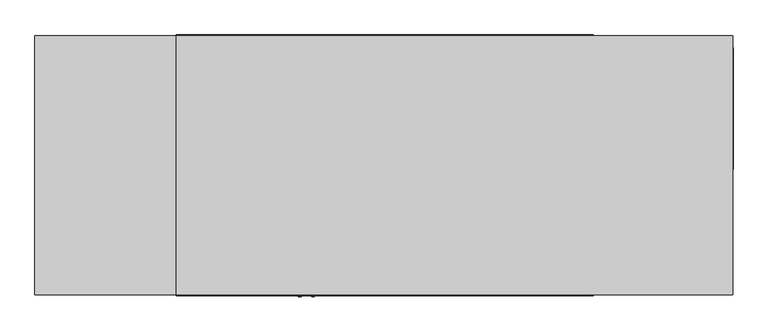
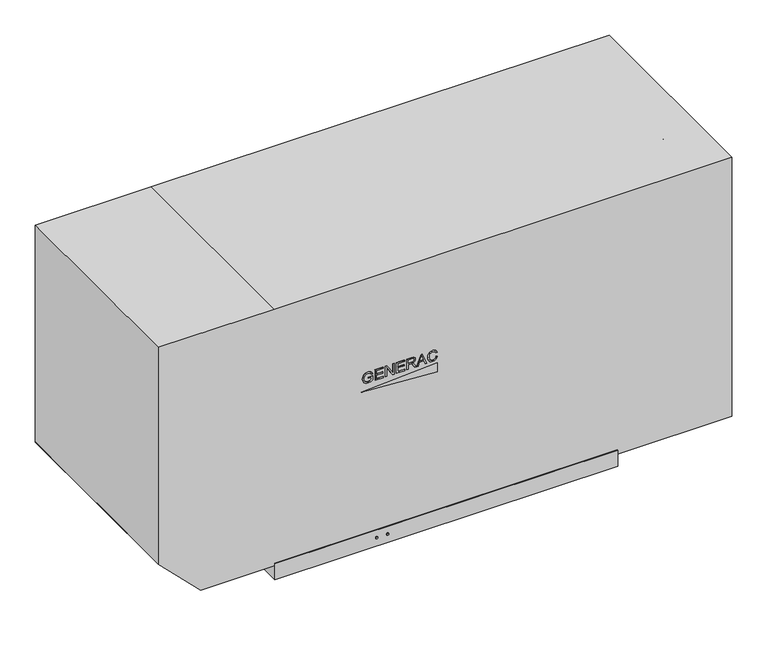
"""IFC4 building model written with IfcOpenShell, lengths in millimetres: proxy geometry, Electrical_Equipment-Generac-Generator-Gemini_1000kW : MD1000GEM - 277v - 3p."""

from ifc_helpers import new_model, si_unit, point, frame, frame_2d, origin, origin_with_axes, place, context, project, spatial, polyline, circle_curve, trimmed, segment, composite_curve, outline, extrude, faceted_brep, source, transform, mapped, element, save


def electrical_equipment_ca6008a4(model_context):
    return source(origin(), model_context, "Body", "SolidModel", [
        extrude(outline(polyline([(2059.2359794, 2382.4413369), (2059.2359794, 2418.4413369), (2036.1109794, 2418.4413369), (2027.3453544, 2402.2382119), (2023.2359794, 2380.3475869), (2028.6891044, 2355.9569619), (2035.5875419, 2345.8397744), (2045.3766044, 2338.4569619), (2057.9664481, 2333.9452431), (2073.2672294, 2332.4413369), (2098.3922294, 2337.4413369), (2110.7203544, 2345.6757119), (2119.7828544, 2359.6132119), (2123.2359794, 2380.0975869), (2120.0328544, 2398.0819619), (2111.5016044, 2410.5507119), (2096.7047294, 2417.8475869), (2100.8609794, 2432.5975869), (2122.0328544, 2422.9257119), (2134.6891044, 2405.3788369), (2139.2359794, 2380.3475869), (2137.2750419, 2362.3944619), (2131.3922294, 2346.6600869), (2121.4742606, 2333.7421181), (2107.4078544, 2324.2382119), (2090.6383231, 2318.3905556), (2072.6109794, 2316.4413369), (2054.7125419, 2318.3983681), (2038.5797294, 2324.2694619), (2025.1305106, 2333.9803994), (2015.2828544, 2347.4569619), (2009.2476981, 2363.6796181), (2007.2359794, 2381.6288369), (2012.2984794, 2408.7694619), (2027.3922294, 2434.4413369), (2075.2359794, 2434.4413369), (2075.2359794, 2382.4413369), (2059.2359794, 2382.4413369)])), frame((0.0, 7.6397414, 0.0), z_axis=(0.0, 1.0, 0.0), x_axis=(0.0, 0.0, 1.0)), (0.0, 0.0, 1.0), 2.5),
        extrude(outline(polyline([(2009.2359794, 2460.4413369), (2009.2359794, 2554.4413369), (2025.2359794, 2554.4413369), (2025.2359794, 2476.4413369), (2067.2359794, 2476.4413369), (2067.2359794, 2548.4413369), (2083.2359794, 2548.4413369), (2083.2359794, 2476.4413369), (2121.2359794, 2476.4413369), (2121.2359794, 2552.4413369), (2137.2359794, 2552.4413369), (2137.2359794, 2460.4413369), (2009.2359794, 2460.4413369)])), frame((0.0, 7.6397414, 0.0), z_axis=(0.0, 1.0, 0.0), x_axis=(0.0, 0.0, 1.0)), (0.0, 0.0, 1.0), 2.5),
        extrude(outline(polyline([(2009.2359794, 2578.4413369), (2009.2359794, 2594.4413369), (2110.6734794, 2594.4413369), (2009.2359794, 2661.3163369), (2009.2359794, 2678.4413369), (2137.2359794, 2678.4413369), (2137.2359794, 2662.4413369), (2035.8297294, 2662.4413369), (2137.2359794, 2595.5663369), (2137.2359794, 2578.4413369), (2009.2359794, 2578.4413369)])), frame((0.0, 7.6397414, 0.0), z_axis=(0.0, 1.0, 0.0), x_axis=(0.0, 0.0, 1.0)), (0.0, 0.0, 1.0), 2.5),
        extrude(outline(polyline([(2009.2359794, 2706.4413369), (2009.2359794, 2800.4413369), (2025.2359794, 2800.4413369), (2025.2359794, 2722.4413369), (2067.2359794, 2722.4413369), (2067.2359794, 2794.4413369), (2083.2359794, 2794.4413369), (2083.2359794, 2722.4413369), (2121.2359794, 2722.4413369), (2121.2359794, 2798.4413369), (2137.2359794, 2798.4413369), (2137.2359794, 2706.4413369), (2009.2359794, 2706.4413369)])), frame((0.0, 7.6397414, 0.0), z_axis=(0.0, 1.0, 0.0), x_axis=(0.0, 0.0, 1.0)), (0.0, 0.0, 1.0), 2.5),
        extrude(outline(polyline([(2009.2359794, 2824.4413369), (2009.2359794, 2840.4413369), (2065.2359794, 2840.4413369), (2065.2359794, 2859.7538369), (2064.6734794, 2869.0350869), (2061.6266044, 2876.6444619), (2053.3297294, 2885.0975869), (2035.7672294, 2897.1288369), (2009.2359794, 2913.7850869), (2009.2359794, 2932.3788369), (2043.9234794, 2911.0350869), (2060.3922294, 2898.0663369), (2067.2359794, 2888.9725869), (2071.4781669, 2904.7343056), (2079.1422294, 2915.7694619), (2089.5953544, 2922.2733681), (2102.2047294, 2924.4413369), (2121.5641044, 2919.2069619), (2133.7828544, 2905.2069619), (2137.2359794, 2879.5975869), (2137.2359794, 2824.4413369), (2009.2359794, 2824.4413369)]), holes=[polyline([(2081.2359794, 2840.4413369), (2121.2359794, 2840.4413369), (2121.2359794, 2880.2850869), (2119.8531669, 2892.9452431), (2115.7047294, 2901.6757119), (2109.4156669, 2906.7499306), (2101.6109794, 2908.4413369), (2090.7516044, 2904.8944619), (2083.5016044, 2894.5194619), (2081.2359794, 2876.2538369), (2081.2359794, 2840.4413369)])]), frame((0.0, 7.6397414, 0.0), z_axis=(0.0, 1.0, 0.0), x_axis=(0.0, 0.0, 1.0)), (0.0, 0.0, 1.0), 2.5),
        extrude(outline(polyline([(2009.2359794, 2937.5350869), (2009.2359794, 2954.4413369), (2049.2359794, 2969.0663369), (2049.2359794, 3021.7850869), (2009.2359794, 3036.4413369), (2009.2359794, 3053.3475869), (2137.2359794, 3002.2538369), (2137.2359794, 2988.6288369), (2009.2359794, 2937.5350869)]), holes=[polyline([(2065.2359794, 2974.9413369), (2099.4547294, 2987.4725869), (2121.2359794, 2995.4413369), (2096.7047294, 3004.4100869), (2065.2359794, 3015.9413369), (2065.2359794, 2974.9413369)])]), frame((0.0, 7.6397414, 0.0), z_axis=(0.0, 1.0, 0.0), x_axis=(0.0, 0.0, 1.0)), (0.0, 0.0, 1.0), 2.5),
        extrude(outline(polyline([(2054.7359794, 3160.4413369), (2041.0328544, 3155.2655556), (2031.1734794, 3146.8632119), (2025.2203544, 3135.7343056), (2023.2359794, 3122.3788369), (2029.0641044, 3100.3007119), (2036.3805106, 3091.4413369), (2046.6734794, 3085.2694619), (2074.2359794, 3080.4413369), (2098.0172294, 3084.5194619), (2108.3766044, 3090.0936806), (2116.3922294, 3098.6600869), (2121.5250419, 3109.9491494), (2123.2359794, 3123.6913369), (2121.6930106, 3135.6132119), (2117.0641044, 3145.3163369), (2109.0601981, 3152.8944619), (2097.3922294, 3158.4413369), (2101.2047294, 3174.4413369), (2117.2672294, 3167.3749306), (2129.2672294, 3156.3632119), (2136.7437919, 3141.8593056), (2139.2359794, 3124.3163369), (2137.3101981, 3108.2382119), (2131.5328544, 3093.5663369), (2122.0445731, 3081.1952431), (2108.9859794, 3072.0194619), (2092.8687919, 3066.3358681), (2074.2047294, 3064.4413369), (2056.5094169, 3066.1171181), (2039.9859794, 3071.1444619), (2025.9312919, 3079.3788369), (2015.6422294, 3090.6757119), (2009.3375419, 3105.4139931), (2007.2359794, 3123.9725869), (2010.0133231, 3142.2538369), (2018.3453544, 3157.4725869), (2031.9664481, 3169.0585244), (2050.6109794, 3176.4413369), (2054.7359794, 3160.4413369)])), frame((0.0, 7.6397414, 0.0), z_axis=(0.0, 1.0, 0.0), x_axis=(0.0, 0.0, 1.0)), (0.0, 0.0, 1.0), 2.5),
        extrude(outline(polyline([(1865.5915403, 3174.6768687), (1970.9375923, 3174.6768687), (1918.2645663, 2301.8095808), (1865.5915403, 3174.6768687)])), frame((0.0, 7.6397414, 0.0), z_axis=(0.0, 1.0, 0.0), x_axis=(0.0, 0.0, 1.0)), (0.0, 0.0, 1.0), 2.5),
        extrude(outline(polyline([(1206.1343451, 2563.7360367), (1206.1343451, 2672.043729), (1246.2737681, 2672.043729), (1262.4564604, 2671.012479), (1275.6115085, 2665.948777), (1284.1391528, 2655.4776232), (1287.3651143, 2640.7095943), (1285.1869292, 2627.9445703), (1278.6523739, 2617.308152), (1266.4327225, 2610.1290655), (1247.1992489, 2607.7360367), (1219.6728066, 2607.7360367), (1219.6728066, 2563.7360367), (1206.1343451, 2563.7360367)]), holes=[polyline([(1219.6728066, 2621.2744982), (1247.9925181, 2621.2744982), (1259.9973258, 2622.5172867), (1267.9300181, 2626.245652), (1272.3524941, 2632.2282242), (1273.8266528, 2640.2336328), (1270.3494893, 2651.4451713), (1261.213672, 2657.5797867), (1247.6752104, 2658.5052674), (1219.6728066, 2658.5052674), (1219.6728066, 2621.2744982)])]), frame((6553.2, 0.0, 0.0), z_axis=(1.0, 0.0, 0.0), x_axis=(0.0, 1.0, 0.0)), (0.0, 0.0, 1.0), 2.5),
        extrude(outline(polyline([(1300.9035758, 2616.4619982), (1304.5129508, 2640.4121184), (1315.3410758, 2658.5317097), (1331.8741287, 2669.9349549), (1352.5982874, 2673.7360367), (1366.8044172, 2671.9511809), (1379.5429989, 2666.5966136), (1390.119922, 2658.0491376), (1397.8410758, 2646.6855559), (1402.5610278, 2633.0545463), (1404.1343451, 2617.7047867), (1402.4783955, 2602.1500992), (1397.510547, 2588.3273828), (1389.5051383, 2576.9439693), (1378.7365085, 2568.7071905), (1366.1070013, 2563.7095943), (1352.5189604, 2562.043729), (1338.0946816, 2563.8847746), (1325.2833835, 2569.4079117), (1314.7329028, 2578.1140415), (1307.0910758, 2589.5040655), (1302.4504508, 2602.6095343), (1300.9035758, 2616.4619982)]), holes=[polyline([(1314.4420374, 2616.3297867), (1317.1490686, 2599.386878), (1325.2701624, 2586.4764213), (1337.4765927, 2578.3057482), (1352.4396335, 2575.5821905), (1367.6208234, 2578.3321905), (1379.8470854, 2586.5821905), (1387.908684, 2599.8892818), (1390.5958835, 2617.8105559), (1385.994922, 2640.1543059), (1372.5490085, 2654.948777), (1352.6776143, 2660.1975751), (1338.1145133, 2657.6690294), (1325.7329028, 2650.0833924), (1317.2647537, 2636.5878996), (1314.4420374, 2616.3297867)])]), frame((6553.2, 0.0, 0.0), z_axis=(1.0, 0.0, 0.0), x_axis=(0.0, 1.0, 0.0)), (0.0, 0.0, 1.0), 2.5),
        extrude(outline(polyline([(1442.1319412, 2563.7360367), (1412.5958835, 2672.043729), (1426.557422, 2672.043729), (1443.6920374, 2600.8610367), (1448.9804989, 2578.887479), (1454.6391528, 2598.3225751), (1476.1103066, 2672.043729), (1496.2329028, 2672.043729), (1511.8338643, 2618.6038251), (1523.4420374, 2578.887479), (1528.5718451, 2600.2264213), (1545.8651143, 2672.043729), (1559.8266528, 2672.043729), (1530.2641528, 2563.7360367), (1515.8002104, 2563.7360367), (1489.8338643, 2647.293729), (1486.2112681, 2658.9547867), (1482.1391528, 2644.9139213), (1458.4732874, 2563.7360367), (1442.1319412, 2563.7360367)])), frame((6553.2, 0.0, 0.0), z_axis=(1.0, 0.0, 0.0), x_axis=(0.0, 1.0, 0.0)), (0.0, 0.0, 1.0), 2.5),
        extrude(outline(polyline([(1573.3651143, 2563.7360367), (1573.3651143, 2672.043729), (1651.2112681, 2672.043729), (1651.2112681, 2658.5052674), (1586.9035758, 2658.5052674), (1586.9035758, 2626.3514213), (1647.8266528, 2626.3514213), (1647.8266528, 2612.8129597), (1586.9035758, 2612.8129597), (1586.9035758, 2577.2744982), (1652.9035758, 2577.2744982), (1652.9035758, 2563.7360367), (1573.3651143, 2563.7360367)])), frame((6553.2, 0.0, 0.0), z_axis=(1.0, 0.0, 0.0), x_axis=(0.0, 1.0, 0.0)), (0.0, 0.0, 1.0), 2.5),
        extrude(outline(polyline([(1673.2112681, 2563.7360367), (1673.2112681, 2672.043729), (1719.8819412, 2672.043729), (1741.5514124, 2669.121854), (1753.3975662, 2658.7829117), (1757.8266528, 2642.401902), (1755.9922177, 2631.7324309), (1750.4889124, 2622.887479), (1741.1514725, 2616.402503), (1727.8146335, 2612.8129597), (1735.5093451, 2607.0220943), (1746.4829028, 2593.0869982), (1764.5429989, 2563.7360367), (1748.8098258, 2563.7360367), (1734.7160758, 2586.1855559), (1724.5357874, 2601.0461328), (1717.3831431, 2608.0665655), (1710.9444412, 2610.6446905), (1703.0910758, 2611.120652), (1686.7497297, 2611.120652), (1686.7497297, 2563.7360367), (1673.2112681, 2563.7360367)]), holes=[polyline([(1686.7497297, 2624.6591136), (1717.0526143, 2624.6591136), (1732.5081431, 2626.5761809), (1741.2869893, 2632.7107963), (1744.2881912, 2641.8994982), (1738.5634316, 2653.824979), (1720.463672, 2658.5052674), (1686.7497297, 2658.5052674), (1686.7497297, 2624.6591136)])]), frame((6553.2, 0.0, 0.0), z_axis=(1.0, 0.0, 0.0), x_axis=(0.0, 1.0, 0.0)), (0.0, 0.0, 1.0), 2.5),
        extrude(outline(polyline([(6555.7, 1221.257663), (6555.7, 1205.257663), (6553.2, 1205.257663), (6553.2, 1221.257663), (6555.7, 1221.257663)])), frame((0.0, 0.0, 2689.6667086), z_axis=(0.0, 0.0, 1.0), x_axis=(1.0, 0.0, 0.0)), (0.0, 0.0, 1.0), 128.0),
        extrude(outline(polyline([(1253.257663, 2689.6667086), (1253.257663, 2817.6667086), (1270.382663, 2817.6667086), (1337.257663, 2716.2604586), (1337.257663, 2817.6667086), (1353.257663, 2817.6667086), (1353.257663, 2689.6667086), (1336.132663, 2689.6667086), (1269.257663, 2791.1042086), (1269.257663, 2689.6667086), (1253.257663, 2689.6667086)])), frame((6553.2, 0.0, 0.0), z_axis=(1.0, 0.0, 0.0), x_axis=(0.0, 1.0, 0.0)), (0.0, 0.0, 1.0), 2.5),
        extrude(outline(polyline([(1381.257663, 2689.6667086), (1381.257663, 2817.6667086), (1425.413913, 2817.6667086), (1448.257663, 2815.8229586), (1467.070163, 2806.6667086), (1475.9217255, 2796.9167086), (1482.226413, 2784.7917086), (1487.257663, 2754.3542086), (1483.851413, 2728.5260836), (1475.101413, 2709.8854586), (1463.413913, 2698.2760836), (1448.117038, 2691.8542086), (1427.538913, 2689.6667086), (1381.257663, 2689.6667086)]), holes=[polyline([(1397.257663, 2705.6667086), (1425.570163, 2705.6667086), (1446.163913, 2707.9792086), (1458.038913, 2714.5104586), (1467.773288, 2730.4010836), (1471.257663, 2754.6042086), (1469.5506317, 2772.0417086), (1464.429538, 2784.9167086), (1456.8631317, 2793.7604586), (1447.820163, 2799.1042086), (1425.132663, 2801.6667086), (1397.257663, 2801.6667086), (1397.257663, 2705.6667086)])]), frame((6553.2, 0.0, 0.0), z_axis=(1.0, 0.0, 0.0), x_axis=(0.0, 1.0, 0.0)), (0.0, 0.0, 1.0), 2.5),
        extrude(outline(polyline([(1593.257663, 2817.6667086), (1609.257663, 2817.6667086), (1609.257663, 2743.8229586), (1604.913913, 2713.2135836), (1598.8279755, 2702.9401461), (1589.257663, 2694.7760836), (1576.179538, 2689.4440524), (1559.570163, 2687.6667086), (1543.3240692, 2689.2135836), (1530.335788, 2693.8542086), (1520.601413, 2701.4284274), (1514.117038, 2711.7760836), (1509.257663, 2743.8229586), (1509.257663, 2817.6667086), (1525.257663, 2817.6667086), (1525.257663, 2744.3854586), (1528.413913, 2719.9948336), (1539.257663, 2707.9167086), (1558.070163, 2703.6667086), (1574.3436005, 2705.7682711), (1585.163913, 2712.0729586), (1591.2342255, 2724.3542086), (1593.257663, 2744.3854586), (1593.257663, 2817.6667086)])), frame((6553.2, 0.0, 0.0), z_axis=(1.0, 0.0, 0.0), x_axis=(0.0, 1.0, 0.0)), (0.0, 0.0, 1.0), 2.5),
        extrude(outline(polyline([(1631.257663, 2733.6667086), (1647.257663, 2733.6667086), (1652.413913, 2717.6510836), (1665.007663, 2707.5260836), (1684.195163, 2703.6667086), (1700.913913, 2706.5885836), (1711.710788, 2714.6198336), (1715.257663, 2725.3542086), (1712.601413, 2735.3385836), (1701.726413, 2742.6042086), (1678.429538, 2748.7135836), (1653.351413, 2756.6042086), (1639.742038, 2768.5104586), (1635.257663, 2784.4167086), (1640.804538, 2802.5260836), (1647.6287567, 2809.9323336), (1657.007663, 2815.3073336), (1680.726413, 2819.6667086), (1706.038913, 2815.1042086), (1715.742038, 2809.4713961), (1722.913913, 2801.6979586), (1729.257663, 2781.6667086), (1713.257663, 2781.6667086), (1710.320163, 2791.2135836), (1704.195163, 2798.1042086), (1694.6248505, 2802.2760836), (1681.351413, 2803.6667086), (1667.7654755, 2802.2917086), (1658.445163, 2798.1667086), (1653.054538, 2792.0963961), (1651.257663, 2784.8854586), (1656.351413, 2773.7917086), (1682.476413, 2764.8542086), (1710.788913, 2756.8229586), (1726.273288, 2743.8542086), (1731.257663, 2725.7604586), (1725.523288, 2706.6198336), (1709.023288, 2692.6510836), (1684.820163, 2687.6667086), (1656.242038, 2693.0417086), (1645.9646942, 2699.7760836), (1638.163913, 2709.2292086), (1633.1561005, 2720.7448336), (1631.257663, 2733.6667086)])), frame((6553.2, 0.0, 0.0), z_axis=(1.0, 0.0, 0.0), x_axis=(0.0, 1.0, 0.0)), (0.0, 0.0, 1.0), 2.5),
        extrude(outline(polyline([(1787.257663, 2689.6667086), (1787.257663, 2801.6667086), (1745.257663, 2801.6667086), (1745.257663, 2817.6667086), (1845.257663, 2817.6667086), (1845.257663, 2801.6667086), (1803.257663, 2801.6667086), (1803.257663, 2689.6667086), (1787.257663, 2689.6667086)])), frame((6553.2, 0.0, 0.0), z_axis=(1.0, 0.0, 0.0), x_axis=(0.0, 1.0, 0.0)), (0.0, 0.0, 1.0), 2.5),
        extrude(outline(polyline([(1863.257663, 2689.6667086), (1863.257663, 2817.6667086), (1918.413913, 2817.6667086), (1944.023288, 2814.2135836), (1958.023288, 2801.9948336), (1963.257663, 2782.6354586), (1961.0896942, 2770.0260836), (1954.585788, 2759.5729586), (1943.5506317, 2751.9088961), (1927.788913, 2747.6667086), (1936.882663, 2740.8229586), (1949.851413, 2724.3542086), (1971.195163, 2689.6667086), (1952.601413, 2689.6667086), (1935.945163, 2716.1979586), (1923.913913, 2733.7604586), (1915.460788, 2742.0573336), (1907.851413, 2745.1042086), (1898.570163, 2745.6667086), (1879.257663, 2745.6667086), (1879.257663, 2689.6667086), (1863.257663, 2689.6667086)]), holes=[polyline([(1879.257663, 2761.6667086), (1915.070163, 2761.6667086), (1933.335788, 2763.9323336), (1943.710788, 2771.1823336), (1947.257663, 2782.0417086), (1945.5662567, 2789.8463961), (1940.492038, 2796.1354586), (1931.7615692, 2800.2838961), (1919.101413, 2801.6667086), (1879.257663, 2801.6667086), (1879.257663, 2761.6667086)])]), frame((6553.2, 0.0, 0.0), z_axis=(1.0, 0.0, 0.0), x_axis=(0.0, 1.0, 0.0)), (0.0, 0.0, 1.0), 2.5),
        extrude(outline(polyline([(6555.7, 2009.257663), (6555.7, 1993.257663), (6553.2, 1993.257663), (6553.2, 2009.257663), (6555.7, 2009.257663)])), frame((0.0, 0.0, 2689.6667086), z_axis=(0.0, 0.0, 1.0), x_axis=(1.0, 0.0, 0.0)), (0.0, 0.0, 1.0), 128.0),
        extrude(outline(polyline([(2026.351413, 2689.6667086), (2077.445163, 2817.6667086), (2091.070163, 2817.6667086), (2142.163913, 2689.6667086), (2125.257663, 2689.6667086), (2110.601413, 2729.6667086), (2057.882663, 2729.6667086), (2043.257663, 2689.6667086), (2026.351413, 2689.6667086)]), holes=[polyline([(2063.757663, 2745.6667086), (2104.757663, 2745.6667086), (2093.226413, 2777.1354586), (2084.257663, 2801.6667086), (2076.288913, 2779.8854586), (2063.757663, 2745.6667086)])]), frame((6553.2, 0.0, 0.0), z_axis=(1.0, 0.0, 0.0), x_axis=(0.0, 1.0, 0.0)), (0.0, 0.0, 1.0), 2.5),
        extrude(outline(polyline([(2159.257663, 2689.6667086), (2159.257663, 2817.6667086), (2175.257663, 2817.6667086), (2175.257663, 2705.6667086), (2239.257663, 2705.6667086), (2239.257663, 2689.6667086), (2159.257663, 2689.6667086)])), frame((6553.2, 0.0, 0.0), z_axis=(1.0, 0.0, 0.0), x_axis=(0.0, 1.0, 0.0)), (0.0, 0.0, 1.0), 2.5),
        extrude(outline(polyline([(1280.165472, 3103.9672417), (1280.165472, 3124.8903186), (1348.165472, 3124.8903186), (1348.165472, 3062.3254148), (1314.5945585, 3042.587434), (1297.0684167, 3037.6222898), (1279.102972, 3035.9672417), (1255.6309167, 3038.5979508), (1234.4166739, 3046.4900782), (1216.7934768, 3059.3677825), (1204.0945585, 3076.9552224), (1196.4169744, 3098.0519773), (1193.8577797, 3121.4576263), (1196.406758, 3145.031845), (1204.0536931, 3166.9612321), (1216.4818782, 3185.3557633), (1233.3746066, 3198.3254148), (1253.9503277, 3206.0183234), (1277.4274912, 3208.5826263), (1294.6624672, 3207.0961479), (1310.1606643, 3202.6367128), (1323.2120465, 3195.5261359), (1333.1065777, 3186.0862321), (1345.7544143, 3158.399934), (1326.4659527, 3152.9648378), (1316.9238854, 3172.3145974), (1300.618597, 3183.4708474), (1277.1005681, 3187.6595494), (1250.3133085, 3183.1439244), (1232.087347, 3171.2929628), (1221.3193181, 3155.1715686), (1216.415472, 3139.3770974), (1214.7808566, 3122.3157994), (1216.7475032, 3102.3070854), (1222.6474431, 3085.8434436), (1232.3018902, 3073.0423619), (1245.5320585, 3064.0213282), (1261.0149311, 3058.673071), (1277.4274912, 3056.8903186), (1306.0536931, 3062.2641167), (1327.2423951, 3073.7268571), (1327.2423951, 3103.9672417), (1280.165472, 3103.9672417)])), frame((6553.2, 0.0, 0.0), z_axis=(1.0, 0.0, 0.0), x_axis=(0.0, 1.0, 0.0)), (0.0, 0.0, 1.0), 2.5),
        extrude(outline(polyline([(1382.165472, 3038.5826263), (1382.165472, 3205.9672417), (1502.4731643, 3205.9672417), (1502.4731643, 3185.0441648), (1403.0885489, 3185.0441648), (1403.0885489, 3135.3518571), (1497.2423951, 3135.3518571), (1497.2423951, 3114.4287801), (1403.0885489, 3114.4287801), (1403.0885489, 3059.5057032), (1505.0885489, 3059.5057032), (1505.0885489, 3038.5826263), (1382.165472, 3038.5826263)])), frame((6553.2, 0.0, 0.0), z_axis=(1.0, 0.0, 0.0), x_axis=(0.0, 1.0, 0.0)), (0.0, 0.0, 1.0), 2.5),
        extrude(outline(polyline([(1536.4731643, 3038.5826263), (1536.4731643, 3205.9672417), (1558.8673951, 3205.9672417), (1646.3193181, 3073.3590686), (1646.3193181, 3205.9672417), (1667.2423951, 3205.9672417), (1667.2423951, 3038.5826263), (1644.8481643, 3038.5826263), (1557.3962412, 3171.2316648), (1557.3962412, 3038.5826263), (1536.4731643, 3038.5826263)])), frame((6553.2, 0.0, 0.0), z_axis=(1.0, 0.0, 0.0), x_axis=(0.0, 1.0, 0.0)), (0.0, 0.0, 1.0), 2.5),
        extrude(outline(polyline([(1703.8577797, 3038.5826263), (1703.8577797, 3205.9672417), (1824.165472, 3205.9672417), (1824.165472, 3185.0441648), (1724.7808566, 3185.0441648), (1724.7808566, 3135.3518571), (1818.9347027, 3135.3518571), (1818.9347027, 3114.4287801), (1724.7808566, 3114.4287801), (1724.7808566, 3059.5057032), (1826.7808566, 3059.5057032), (1826.7808566, 3038.5826263), (1703.8577797, 3038.5826263)])), frame((6553.2, 0.0, 0.0), z_axis=(1.0, 0.0, 0.0), x_axis=(0.0, 1.0, 0.0)), (0.0, 0.0, 1.0), 2.5),
        extrude(outline(polyline([(1858.165472, 3038.5826263), (1858.165472, 3205.9672417), (1930.2928758, 3205.9672417), (1963.7820585, 3201.4516167), (1974.0903518, 3195.1992128), (1982.0897508, 3185.4732513), (1987.2234648, 3173.4128547), (1988.9347027, 3160.1571455), (1986.0996667, 3143.6679628), (1977.5945585, 3129.9984917), (1963.1639696, 3119.9762561), (1942.5524912, 3114.4287801), (1954.4443181, 3105.4792609), (1971.4034527, 3083.9432032), (1999.3145104, 3038.5826263), (1974.9996066, 3038.5826263), (1953.2183566, 3073.2773378), (1937.4851835, 3096.243684), (1926.431097, 3107.0934436), (1916.4803758, 3111.0778186), (1904.3433566, 3111.8133955), (1879.0885489, 3111.8133955), (1879.0885489, 3038.5826263), (1858.165472, 3038.5826263)]), holes=[polyline([(1879.0885489, 3132.7364724), (1925.9202797, 3132.7364724), (1949.806097, 3135.6992128), (1963.3734047, 3145.1799821), (1968.0116258, 3159.3807032), (1965.7997869, 3169.586833), (1959.1642701, 3177.8109917), (1947.7475032, 3183.2358715), (1931.1919143, 3185.0441648), (1879.0885489, 3185.0441648), (1879.0885489, 3132.7364724)])]), frame((6553.2, 0.0, 0.0), z_axis=(1.0, 0.0, 0.0), x_axis=(0.0, 1.0, 0.0)), (0.0, 0.0, 1.0), 2.5),
        extrude(outline(polyline([(2006.0572989, 3038.5826263), (2072.8722027, 3205.9672417), (2090.6895104, 3205.9672417), (2157.5044143, 3038.5826263), (2135.3962412, 3038.5826263), (2116.2303758, 3090.8903186), (2047.290472, 3090.8903186), (2028.165472, 3038.5826263), (2006.0572989, 3038.5826263)]), holes=[polyline([(2054.9731643, 3111.8133955), (2108.5885489, 3111.8133955), (2093.509222, 3152.9648378), (2081.7808566, 3185.0441648), (2071.3601835, 3156.5609917), (2054.9731643, 3111.8133955)])]), frame((6553.2, 0.0, 0.0), z_axis=(1.0, 0.0, 0.0), x_axis=(0.0, 1.0, 0.0)), (0.0, 0.0, 1.0), 2.5),
        extrude(outline(polyline([(2297.5500874, 3098.0826263), (2318.4731643, 3092.6883955), (2308.8187172, 3068.3070854), (2293.6678758, 3050.4948859), (2273.7664335, 3039.5991527), (2249.8601835, 3035.9672417), (2225.5912532, 3038.7154388), (2206.3181162, 3046.9600301), (2191.5452797, 3060.414958), (2180.7772508, 3078.7941648), (2174.2030321, 3100.4017369), (2172.0116258, 3123.5417609), (2174.4890898, 3147.9486119), (2181.9214816, 3169.024934), (2193.9205802, 3186.1015566), (2210.0981643, 3198.509309), (2229.2844624, 3206.064297), (2250.3097027, 3208.5826263), (2273.250508, 3205.3236119), (2292.2171547, 3195.5465686), (2306.6170946, 3179.8542609), (2315.8577797, 3158.8494532), (2294.9347027, 3153.8638763), (2287.681097, 3169.1219893), (2277.7712412, 3179.5886359), (2265.0825393, 3185.641821), (2249.4923951, 3187.6595494), (2231.5218422, 3185.4221696), (2216.759222, 3178.7100301), (2205.5569984, 3168.228059), (2198.2676354, 3154.681184), (2192.9347027, 3123.5826263), (2194.5131282, 3104.2532994), (2199.2484047, 3087.5393571), (2207.3193181, 3074.079321), (2218.9046547, 3064.5117128), (2232.7937773, 3058.7956672), (2247.7760489, 3056.8903186), (2265.2408927, 3059.4852705), (2279.7940777, 3067.2701263), (2290.781758, 3080.1631551), (2297.5500874, 3098.0826263)])), frame((6553.2, 0.0, 0.0), z_axis=(1.0, 0.0, 0.0), x_axis=(0.0, 1.0, 0.0)), (0.0, 0.0, 1.0), 2.5),
        extrude(outline(polyline([(2336.1954909, 2857.2326011), (1193.7004037, 2926.1762702), (2336.1954909, 2995.1199392), (2336.1954909, 2857.2326011)])), frame((6553.2, 0.0, 0.0), z_axis=(1.0, 0.0, 0.0), x_axis=(0.0, 1.0, 0.0)), (0.0, 0.0, 1.0), 2.5),
        faceted_brep([(5237.88, 10.1397414, 194.564), (5237.88, 10.1397414, 136.964), (6553.2, 10.1397414, 136.964), (6553.2, 10.1397414, 194.564), (6553.2, 10.1397414, 3275.8687032), (1307.48, 10.1397414, 3275.8687032), (-23.52, 10.1397414, 3275.8687032), (-23.52, 10.1397414, 650.9687032), (-21.97, 10.1397414, 647.2187032), (461.2597032, 10.1397414, 163.989), (465.0097032, 10.1397414, 162.439), (1307.48, 10.1397414, 162.439), (1307.48, 10.1397414, 194.564), (5237.88, 2450.1397414, 194.564), (1307.48, 2450.1397414, 194.564), (1307.48, 2450.1397414, 162.439), (465.0097032, 2450.1397414, 162.439), (461.2597032, 2450.1397414, 163.989), (-21.97, 2450.1397414, 647.2187032), (-23.52, 2450.1397414, 650.9687032), (-23.52, 2450.1397414, 3275.8687032), (1307.48, 2450.1397414, 3275.8687032), (6553.2, 2450.1397414, 3275.8687032), (6553.2, 2450.1397414, 728.814), (5961.35, 2450.1397414, 136.964), (5237.88, 2450.1397414, 136.964), (6553.2, 1053.7897414, 194.564), (6553.2, 1053.7897414, 728.814), (5961.35, 1053.7897414, 136.964), (6553.2, 1053.7897414, 136.964)], [[[0, 1, 2, 3, 4, 5, 6, 7, 8, 9, 10, 11, 12]], [[13, 14, 15, 16, 17, 18, 19, 20, 21, 22, 23, 24, 25]], [[4, 3, 26, 27, 23, 22]], [[5, 4, 22, 21]], [[0, 12, 14, 13]], [[6, 5, 21, 20]], [[7, 6, 20, 19]], [[8, 7, 19, 18]], [[9, 8, 18, 17]], [[10, 9, 17, 16]], [[11, 10, 16, 15]], [[12, 11, 15, 14]], [[28, 27, 26, 29]], [[27, 28, 24, 23]], [[1, 0, 13, 25]], [[2, 1, 25, 24, 28, 29]], [[3, 2, 29, 26]]]),
        extrude(outline(polyline([(5237.88, 0.0), (1307.48, 0.0), (1307.48, 2458.67645), (5237.88, 2458.67645), (5237.88, 0.0)])), origin_with_axes(), (0.0, 0.0, 1.0), 194.564),
        extrude(outline(composite_curve([segment(trimmed(circle_curve(frame_2d((107.95, 2471.7375)), 12.7), [point((107.95, 2459.0375))], [point((107.95, 2484.4375))], False, "CARTESIAN"), True, "CONTINUOUS"), segment(trimmed(circle_curve(frame_2d((107.95, 2471.7375)), 12.7), [point((107.95, 2484.4375))], [point((107.95, 2459.0375))], False, "CARTESIAN"), True, "CONTINUOUS")], self_intersect=False)), frame((0.0, -9.1915353, 0.0), z_axis=(0.0, 1.0, 0.0), x_axis=(0.0, 0.0, 1.0)), (0.0, 0.0, 1.0), 9.1915353),
        extrude(outline(composite_curve([segment(trimmed(circle_curve(frame_2d((107.95, 2597.15)), 12.7), [point((107.95, 2584.45))], [point((107.95, 2609.85))], False, "CARTESIAN"), True, "CONTINUOUS"), segment(trimmed(circle_curve(frame_2d((107.95, 2597.15)), 12.7), [point((107.95, 2609.85))], [point((107.95, 2584.45))], False, "CARTESIAN"), True, "CONTINUOUS")], self_intersect=False)), frame((0.0, -9.1915353, 0.0), z_axis=(0.0, 1.0, 0.0), x_axis=(0.0, 0.0, 1.0)), (0.0, 0.0, 1.0), 9.1915353),
        extrude(outline(polyline([(6495.877767, 218.948), (6495.877767, 67.0346596), (5320.792, 67.0346596), (5320.792, 218.948), (6495.877767, 218.948)])), frame((0.0, 0.0, 136.964), z_axis=(0.0, 0.0, 1.0), x_axis=(1.0, 0.0, 0.0)), (0.0, 0.0, 1.0), 57.6),
        extrude(outline(polyline([(6495.877767, 218.948), (5237.88, 218.948), (5237.88, 1001.7703801), (6495.877767, 1001.7703801), (6495.877767, 218.948)])), frame((0.0, 0.0, 136.964), z_axis=(0.0, 0.0, 1.0), x_axis=(1.0, 0.0, 0.0)), (0.0, 0.0, 1.0), 167.836),
    ])


if __name__ == "__main__":
    model = new_model("IFC4")
    model_context = context("Model", 3, world=origin())
    ifc_project = project(units=[si_unit("LENGTHUNIT", "METRE", prefix="MILLI")], contexts=[model_context])
    site = spatial("IfcSite", under=ifc_project)
    building = spatial("IfcBuilding", under=site)
    placement = place(None, origin())
    electrical_equipment_shape = electrical_equipment_ca6008a4(model_context)
    element("IfcBuildingElementProxy", 1, Name="Electrical_Equipment-Generac-Generator-Gemini_1000kW : MD1000GEM - 277v - 3p", ObjectType="Electrical_Equipment-Generac-Generator-Gemini_1000kW : MD1000GEM - 277v - 3p", at=placement, inside=building, context=model_context, shape_type="MappedRepresentation", body=[
        mapped(electrical_equipment_shape, transform((0.0, 0.0, 0.0), x_axis=(1.0, 0.0, 0.0), y_axis=(0.0, 1.0, 0.0), z_axis=(0.0, 0.0, 1.0))),
    ])
    save(model, "model.ifc")
